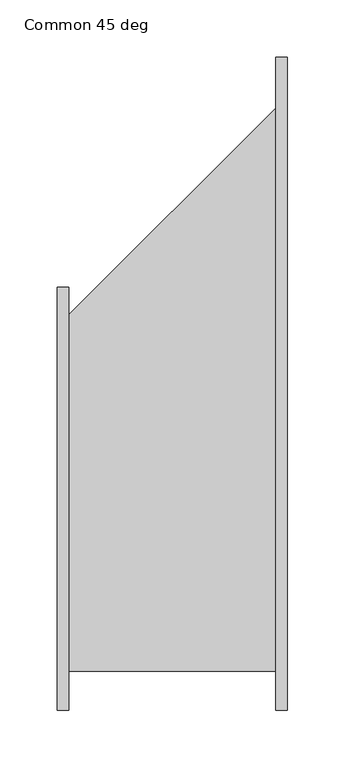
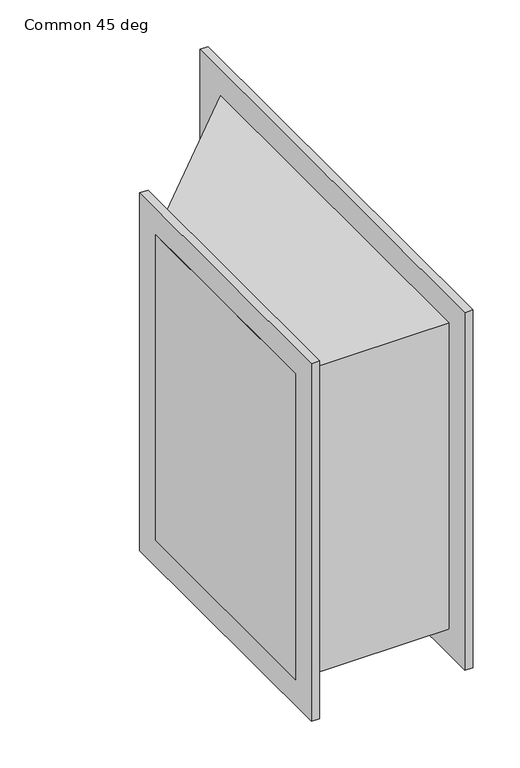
"""IFC4 building model written with IfcOpenShell, lengths in millimetres: duct fitting geometry, 041_角型置換 - フランジ - 角度 : Common 45 deg."""

from ifc_helpers import new_model, si_unit, frame, origin, place, context, project, spatial, polyline, outline, extrude, source, transform, mapped, element, save


def common_45_deg_ca4ca436(model_context):
    return source(origin(), model_context, "Body", "SweptSolid", [
        extrude(outline(polyline([(0.0, -150.0), (0.0, 150.0), (200.0, 350.0), (200.0, -150.0), (0.0, -150.0)])), frame((0.0, 0.0, -200.0), z_axis=(0.0, 0.0, 1.0), x_axis=(1.0, 0.0, 0.0)), (0.0, 0.0, 1.0), 400.0),
        extrude(outline(polyline([(200.0, 384.0), (200.0, -184.0), (190.0, -184.0), (190.0, 384.0), (200.0, 384.0)])), frame((0.0, 0.0, -234.0), z_axis=(0.0, 0.0, 1.0), x_axis=(1.0, 0.0, 0.0)), (0.0, 0.0, 1.0), 468.0),
        extrude(outline(polyline([(10.0, 184.0), (10.0, -184.0), (0.0, -184.0), (0.0, 184.0), (10.0, 184.0)])), frame((0.0, 0.0, -234.0), z_axis=(0.0, 0.0, 1.0), x_axis=(1.0, 0.0, 0.0)), (0.0, 0.0, 1.0), 468.0),
    ])


if __name__ == "__main__":
    model = new_model("IFC4")
    model_context = context("Model", 3, world=origin())
    ifc_project = project(units=[si_unit("LENGTHUNIT", "METRE", prefix="MILLI")], contexts=[model_context])
    site = spatial("IfcSite", under=ifc_project)
    building = spatial("IfcBuilding", under=site)
    placement = place(None, origin())
    common_45_deg_shape = common_45_deg_ca4ca436(model_context)
    element("IfcDuctFitting", 1, ObjectType="041_角型置換 - フランジ - 角度 : Common 45 deg", at=placement, inside=building, context=model_context, shape_type="MappedRepresentation", body=[
        mapped(common_45_deg_shape, transform((0.0, 0.0, 0.0), x_axis=(1.0, 0.0, 0.0), y_axis=(0.0, 1.0, 0.0), z_axis=(0.0, 0.0, 1.0))),
    ])
    save(model, "model.ifc")
